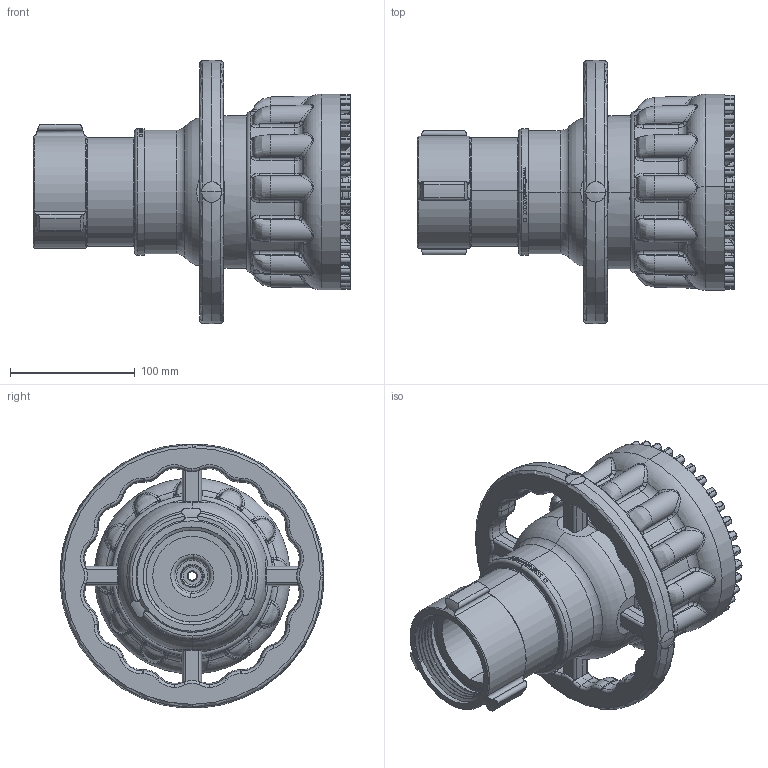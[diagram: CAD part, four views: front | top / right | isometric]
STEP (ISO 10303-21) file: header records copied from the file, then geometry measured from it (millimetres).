
FILE_DESCRIPTION (( 'STEP AP203' ), '1' );
FILE_NAME ('M-R1250S-NJ.step', '2014-05-13T19:40:26', ( 'user' ), ( '' ), 'SwSTEP 2.0', 'SolidWorks 2012', '' );
FILE_SCHEMA (( 'CONFIG_CONTROL_DESIGN' ));
Length unit declared in the file: inch
Products named in the file (1): M-R1250S-NJ
Bounding box: 254.81 x 211.96 x 211.96 mm (x, y, z)
Surface area: 271280.7 mm2 (no closed solid volume)
Topology: 0 solids, 20 shells, 1161 faces, 3600 edges, 2378 vertices
Faces by surface type: cylinder 380, plane 313, bspline 228, torus 134, cone 98, sphere 8
Entity records: 65437 total; most frequent: CARTESIAN_POINT 36939, ORIENTED_EDGE 6474, DIRECTION 5026, EDGE_CURVE 3600, VERTEX_POINT 2378, AXIS2_PLACEMENT_3D 1961, EDGE_LOOP 1203, B_SPLINE_CURVE_WITH_KNOTS 1196
